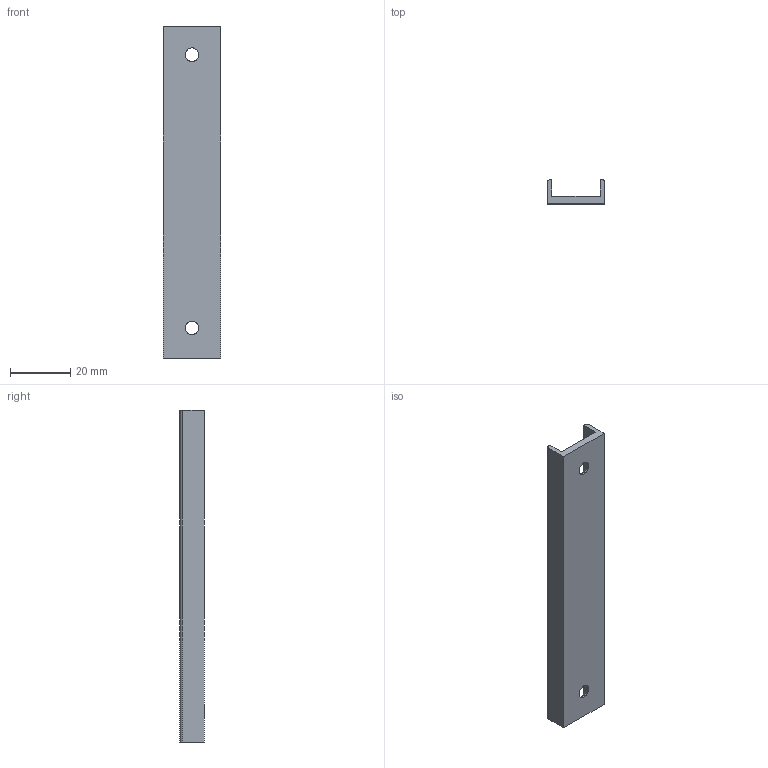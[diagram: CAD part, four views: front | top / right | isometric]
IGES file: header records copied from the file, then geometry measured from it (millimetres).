
Global section: file name: guide_mid; native system: Autodesk Inventor 2015; preprocessor: unknown; author: uidn2323; date: 20160121.111012; units: millimetre
Bounding box: 19 x 8 x 110 mm (x, y, z)
Volume: 6839.7 mm3; surface area: 7167.3 mm2
Topology: 1 solids, 1 shells, 16 faces, 40 edges, 26 vertices
Faces by surface type: bspline 16
